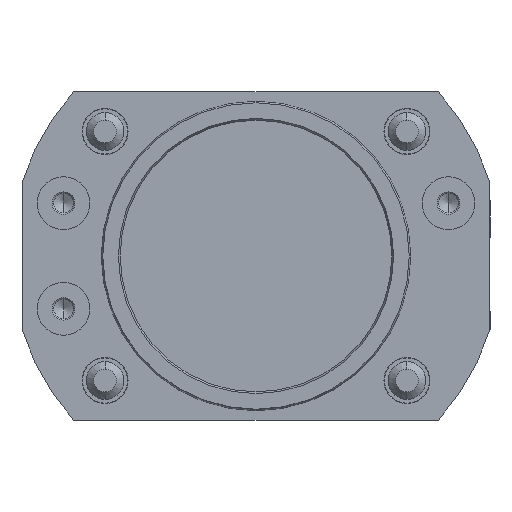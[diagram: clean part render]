
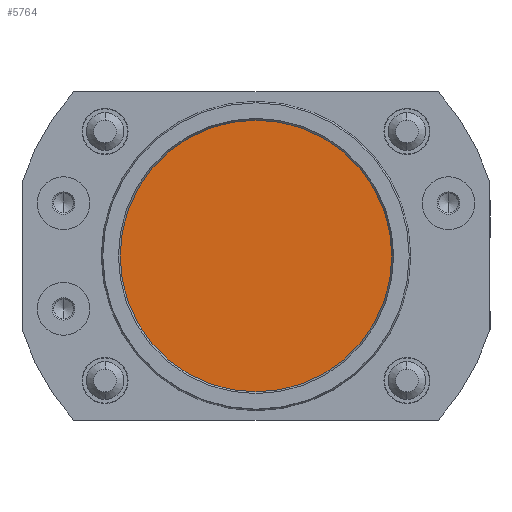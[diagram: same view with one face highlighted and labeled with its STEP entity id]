
A CAD part, front view. The second image highlights one B-rep face of the part: STEP entity #5764.
In plain terms, the highlighted planar face has unit normal (0, -1, 0).
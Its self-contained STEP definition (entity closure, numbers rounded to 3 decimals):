
#3370 = CARTESIAN_POINT ( 'NONE',  ( 0., 3., -18. ) ) ;
#3798 = CARTESIAN_POINT ( 'NONE',  ( 0., 3., 18. ) ) ;
#3904 = CIRCLE ( 'NONE', #3961, 18. ) ;
#3949 = DIRECTION ( 'NONE',  ( 0., 0., 1. ) ) ;
#3950 = DIRECTION ( 'NONE',  ( 0., 1., 0. ) ) ;
#3951 = CARTESIAN_POINT ( 'NONE',  ( 0., 3., 0. ) ) ;
#3961 = AXIS2_PLACEMENT_3D ( 'NONE', #3951, #3950, #3949 ) ;
#5732 = EDGE_LOOP ( 'NONE', ( #5766, #5734 ) ) ;
#5734 = ORIENTED_EDGE ( 'NONE', *, *, #9307, .F. ) ;
#5764 = ADVANCED_FACE ( 'NONE', ( #7390 ), #7393, .T. ) ;
#5766 = ORIENTED_EDGE ( 'NONE', *, *, #5807, .F. ) ;
#5807 = EDGE_CURVE ( 'NONE', #9232, #9056, #7459, .T. ) ;
#7337 = DIRECTION ( 'NONE',  ( 0., -1., 0. ) ) ;
#7343 = CARTESIAN_POINT ( 'NONE',  ( 0., 3., 0. ) ) ;
#7382 = DIRECTION ( 'NONE',  ( 0., 0., -1. ) ) ;
#7389 = AXIS2_PLACEMENT_3D ( 'NONE', #7343, #7337, #7382 ) ;
#7390 = FACE_OUTER_BOUND ( 'NONE', #5732, .T. ) ;
#7393 = PLANE ( 'NONE',  #7389 ) ;
#7436 = AXIS2_PLACEMENT_3D ( 'NONE', #7438, #7488, #7487 ) ;
#7438 = CARTESIAN_POINT ( 'NONE',  ( 0., 3., 0. ) ) ;
#7459 = CIRCLE ( 'NONE', #7436, 18. ) ;
#7487 = DIRECTION ( 'NONE',  ( 0., 0., 1. ) ) ;
#7488 = DIRECTION ( 'NONE',  ( 0., 1., 0. ) ) ;
#9056 = VERTEX_POINT ( 'NONE', #3370 ) ;
#9232 = VERTEX_POINT ( 'NONE', #3798 ) ;
#9307 = EDGE_CURVE ( 'NONE', #9056, #9232, #3904, .T. ) ;
